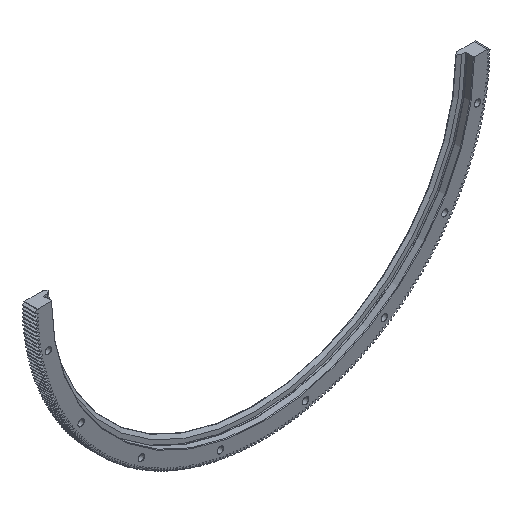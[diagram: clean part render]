
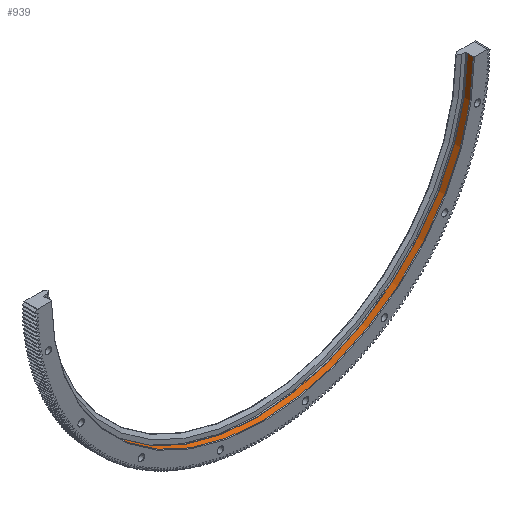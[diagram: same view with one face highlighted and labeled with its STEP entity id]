
A CAD part, isometric view. The second image highlights one B-rep face of the part: STEP entity #939.
In plain terms, the highlighted cylindrical face has radius 380 mm (diameter 760 mm), a partial arc.
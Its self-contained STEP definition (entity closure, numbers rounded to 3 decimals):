
#939 = ADVANCED_FACE( '', ( #3118 ), #3119, .F. );
#3118 = FACE_OUTER_BOUND( '', #5698, .T. );
#3119 = CYLINDRICAL_SURFACE( '', #5699, 380. );
#5698 = EDGE_LOOP( '', ( #14958, #14959, #14960, #14961 ) );
#5699 = AXIS2_PLACEMENT_3D( '', #14962, #14963, #14964 );
#14958 = ORIENTED_EDGE( '', *, *, #21307, .F. );
#14959 = ORIENTED_EDGE( '', *, *, #17789, .T. );
#14960 = ORIENTED_EDGE( '', *, *, #21308, .T. );
#14961 = ORIENTED_EDGE( '', *, *, #19892, .T. );
#14962 = CARTESIAN_POINT( '', ( 0., 0., 0. ) );
#14963 = DIRECTION( '', ( 0., 1., 0. ) );
#14964 = DIRECTION( '', ( 0., 0., -1. ) );
#17789 = EDGE_CURVE( '', #21540, #21538, #21541, .T. );
#19892 = EDGE_CURVE( '', #25733, #25731, #25734, .F. );
#21307 = EDGE_CURVE( '', #21540, #25731, #27547, .T. );
#21308 = EDGE_CURVE( '', #21538, #25733, #27548, .T. );
#21538 = VERTEX_POINT( '', #27796 );
#21540 = VERTEX_POINT( '', #27801 );
#21541 = LINE( '', #27802, #27803 );
#25731 = VERTEX_POINT( '', #33673 );
#25733 = VERTEX_POINT( '', #33676 );
#25734 = LINE( '', #33677, #33678 );
#27547 = CIRCLE( '', #37703, 380. );
#27548 = CIRCLE( '', #37704, 380. );
#27796 = CARTESIAN_POINT( '', ( -379.995, 1., -2. ) );
#27801 = CARTESIAN_POINT( '', ( -379.995, 12., -2. ) );
#27802 = CARTESIAN_POINT( '', ( -379.995, 0., -2. ) );
#27803 = VECTOR( '', #37919, 1000. );
#33673 = CARTESIAN_POINT( '', ( 379.995, 12., -2. ) );
#33676 = CARTESIAN_POINT( '', ( 379.995, 1., -2. ) );
#33677 = CARTESIAN_POINT( '', ( 379.995, 0., -2. ) );
#33678 = VECTOR( '', #40917, 1000. );
#37703 = AXIS2_PLACEMENT_3D( '', #41939, #41940, #41941 );
#37704 = AXIS2_PLACEMENT_3D( '', #41942, #41943, #41944 );
#37919 = DIRECTION( '', ( 0., -1., 0. ) );
#40917 = DIRECTION( '', ( 0., -1., 0. ) );
#41939 = CARTESIAN_POINT( '', ( 0., 12., 0. ) );
#41940 = DIRECTION( '', ( 0., -1., 0. ) );
#41941 = DIRECTION( '', ( 0., 0., -1. ) );
#41942 = CARTESIAN_POINT( '', ( 0., 1., 0. ) );
#41943 = DIRECTION( '', ( 0., -1., 0. ) );
#41944 = DIRECTION( '', ( 0., 0., -1. ) );
